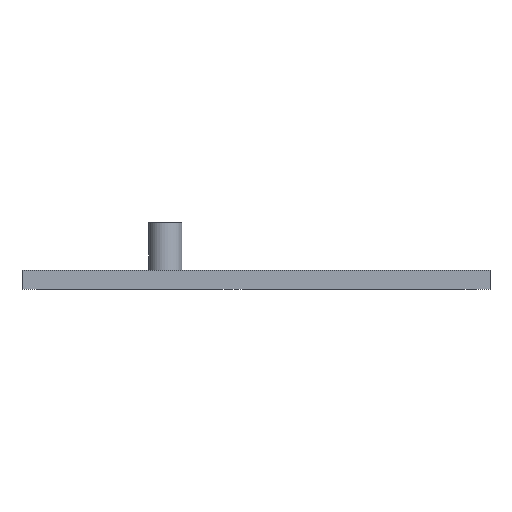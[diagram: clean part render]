
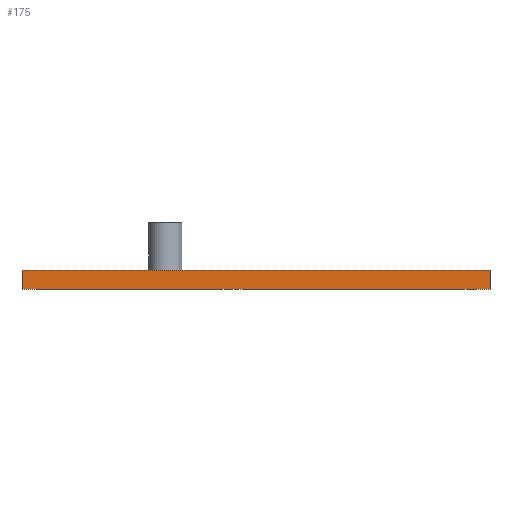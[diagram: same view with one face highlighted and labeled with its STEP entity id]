
A CAD part, front view. The second image highlights one B-rep face of the part: STEP entity #175.
In plain terms, the highlighted planar face has unit normal (0, -1, 0).
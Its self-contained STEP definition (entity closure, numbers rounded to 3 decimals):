
#59 = EDGE_CURVE('',#60,#62,#64,.T.);
#60 = VERTEX_POINT('',#61);
#61 = CARTESIAN_POINT('',(0.,0.,0.));
#62 = VERTEX_POINT('',#63);
#63 = CARTESIAN_POINT('',(0.,0.,4.));
#64 = SURFACE_CURVE('',#65,(#69,#81),.PCURVE_S1.);
#65 = LINE('',#66,#67);
#66 = CARTESIAN_POINT('',(0.,0.,0.));
#67 = VECTOR('',#68,1.);
#68 = DIRECTION('',(0.,0.,1.));
#69 = PCURVE('',#70,#75);
#70 = PLANE('',#71);
#71 = AXIS2_PLACEMENT_3D('',#72,#73,#74);
#72 = CARTESIAN_POINT('',(0.,0.,0.));
#73 = DIRECTION('',(1.,0.,-0.));
#74 = DIRECTION('',(0.,0.,1.));
#75 = DEFINITIONAL_REPRESENTATION('',(#76),#80);
#76 = LINE('',#77,#78);
#77 = CARTESIAN_POINT('',(0.,0.));
#78 = VECTOR('',#79,1.);
#79 = DIRECTION('',(1.,0.));
#80 = ( GEOMETRIC_REPRESENTATION_CONTEXT(2) 
PARAMETRIC_REPRESENTATION_CONTEXT() REPRESENTATION_CONTEXT('2D SPACE',''
  ) );
#81 = PCURVE('',#82,#87);
#82 = PLANE('',#83);
#83 = AXIS2_PLACEMENT_3D('',#84,#85,#86);
#84 = CARTESIAN_POINT('',(0.,0.,0.));
#85 = DIRECTION('',(-0.,1.,0.));
#86 = DIRECTION('',(0.,0.,1.));
#87 = DEFINITIONAL_REPRESENTATION('',(#88),#92);
#88 = LINE('',#89,#90);
#89 = CARTESIAN_POINT('',(0.,0.));
#90 = VECTOR('',#91,1.);
#91 = DIRECTION('',(1.,0.));
#92 = ( GEOMETRIC_REPRESENTATION_CONTEXT(2) 
PARAMETRIC_REPRESENTATION_CONTEXT() REPRESENTATION_CONTEXT('2D SPACE',''
  ) );
#110 = PLANE('',#111);
#111 = AXIS2_PLACEMENT_3D('',#112,#113,#114);
#112 = CARTESIAN_POINT('',(0.,0.,0.));
#113 = DIRECTION('',(0.,0.,1.));
#114 = DIRECTION('',(1.,0.,-0.));
#164 = PLANE('',#165);
#165 = AXIS2_PLACEMENT_3D('',#166,#167,#168);
#166 = CARTESIAN_POINT('',(0.,0.,4.));
#167 = DIRECTION('',(0.,0.,1.));
#168 = DIRECTION('',(1.,0.,-0.));
#175 = ADVANCED_FACE('',(#176),#82,.F.);
#176 = FACE_BOUND('',#177,.F.);
#177 = EDGE_LOOP('',(#178,#201,#202,#225));
#178 = ORIENTED_EDGE('',*,*,#179,.F.);
#179 = EDGE_CURVE('',#60,#180,#182,.T.);
#180 = VERTEX_POINT('',#181);
#181 = CARTESIAN_POINT('',(98.,0.,0.));
#182 = SURFACE_CURVE('',#183,(#187,#194),.PCURVE_S1.);
#183 = LINE('',#184,#185);
#184 = CARTESIAN_POINT('',(0.,0.,0.));
#185 = VECTOR('',#186,1.);
#186 = DIRECTION('',(1.,0.,-0.));
#187 = PCURVE('',#82,#188);
#188 = DEFINITIONAL_REPRESENTATION('',(#189),#193);
#189 = LINE('',#190,#191);
#190 = CARTESIAN_POINT('',(0.,0.));
#191 = VECTOR('',#192,1.);
#192 = DIRECTION('',(0.,1.));
#193 = ( GEOMETRIC_REPRESENTATION_CONTEXT(2) 
PARAMETRIC_REPRESENTATION_CONTEXT() REPRESENTATION_CONTEXT('2D SPACE',''
  ) );
#194 = PCURVE('',#110,#195);
#195 = DEFINITIONAL_REPRESENTATION('',(#196),#200);
#196 = LINE('',#197,#198);
#197 = CARTESIAN_POINT('',(0.,0.));
#198 = VECTOR('',#199,1.);
#199 = DIRECTION('',(1.,0.));
#200 = ( GEOMETRIC_REPRESENTATION_CONTEXT(2) 
PARAMETRIC_REPRESENTATION_CONTEXT() REPRESENTATION_CONTEXT('2D SPACE',''
  ) );
#201 = ORIENTED_EDGE('',*,*,#59,.T.);
#202 = ORIENTED_EDGE('',*,*,#203,.T.);
#203 = EDGE_CURVE('',#62,#204,#206,.T.);
#204 = VERTEX_POINT('',#205);
#205 = CARTESIAN_POINT('',(98.,0.,4.));
#206 = SURFACE_CURVE('',#207,(#211,#218),.PCURVE_S1.);
#207 = LINE('',#208,#209);
#208 = CARTESIAN_POINT('',(0.,0.,4.));
#209 = VECTOR('',#210,1.);
#210 = DIRECTION('',(1.,0.,-0.));
#211 = PCURVE('',#82,#212);
#212 = DEFINITIONAL_REPRESENTATION('',(#213),#217);
#213 = LINE('',#214,#215);
#214 = CARTESIAN_POINT('',(4.,0.));
#215 = VECTOR('',#216,1.);
#216 = DIRECTION('',(0.,1.));
#217 = ( GEOMETRIC_REPRESENTATION_CONTEXT(2) 
PARAMETRIC_REPRESENTATION_CONTEXT() REPRESENTATION_CONTEXT('2D SPACE',''
  ) );
#218 = PCURVE('',#164,#219);
#219 = DEFINITIONAL_REPRESENTATION('',(#220),#224);
#220 = LINE('',#221,#222);
#221 = CARTESIAN_POINT('',(0.,0.));
#222 = VECTOR('',#223,1.);
#223 = DIRECTION('',(1.,0.));
#224 = ( GEOMETRIC_REPRESENTATION_CONTEXT(2) 
PARAMETRIC_REPRESENTATION_CONTEXT() REPRESENTATION_CONTEXT('2D SPACE',''
  ) );
#225 = ORIENTED_EDGE('',*,*,#226,.F.);
#226 = EDGE_CURVE('',#180,#204,#227,.T.);
#227 = SURFACE_CURVE('',#228,(#232,#239),.PCURVE_S1.);
#228 = LINE('',#229,#230);
#229 = CARTESIAN_POINT('',(98.,0.,0.));
#230 = VECTOR('',#231,1.);
#231 = DIRECTION('',(0.,0.,1.));
#232 = PCURVE('',#82,#233);
#233 = DEFINITIONAL_REPRESENTATION('',(#234),#238);
#234 = LINE('',#235,#236);
#235 = CARTESIAN_POINT('',(0.,98.));
#236 = VECTOR('',#237,1.);
#237 = DIRECTION('',(1.,0.));
#238 = ( GEOMETRIC_REPRESENTATION_CONTEXT(2) 
PARAMETRIC_REPRESENTATION_CONTEXT() REPRESENTATION_CONTEXT('2D SPACE',''
  ) );
#239 = PCURVE('',#240,#245);
#240 = PLANE('',#241);
#241 = AXIS2_PLACEMENT_3D('',#242,#243,#244);
#242 = CARTESIAN_POINT('',(98.,0.,0.));
#243 = DIRECTION('',(1.,0.,-0.));
#244 = DIRECTION('',(0.,0.,1.));
#245 = DEFINITIONAL_REPRESENTATION('',(#246),#250);
#246 = LINE('',#247,#248);
#247 = CARTESIAN_POINT('',(0.,0.));
#248 = VECTOR('',#249,1.);
#249 = DIRECTION('',(1.,0.));
#250 = ( GEOMETRIC_REPRESENTATION_CONTEXT(2) 
PARAMETRIC_REPRESENTATION_CONTEXT() REPRESENTATION_CONTEXT('2D SPACE',''
  ) );
